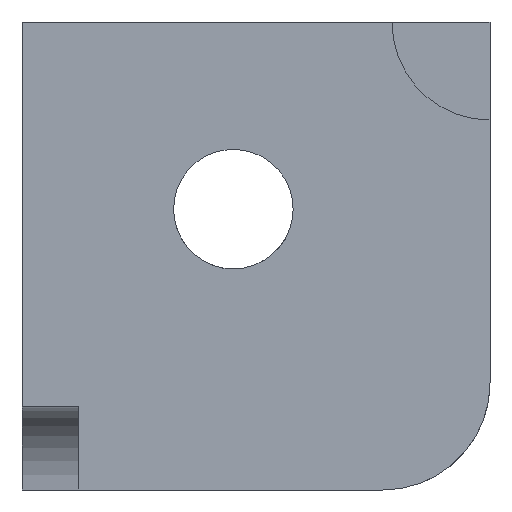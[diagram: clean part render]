
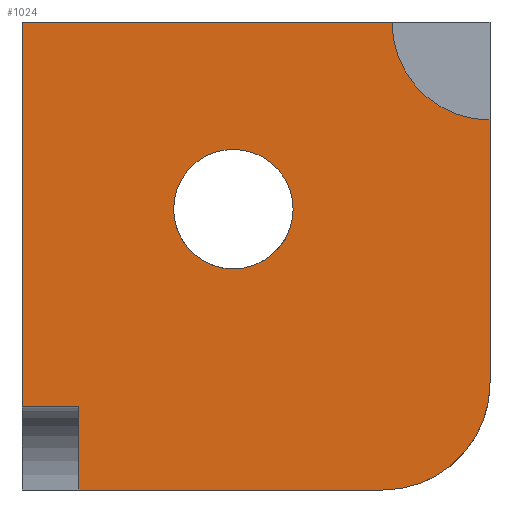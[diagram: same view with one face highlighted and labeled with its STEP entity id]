
A CAD part, front view. The second image highlights one B-rep face of the part: STEP entity #1024.
In plain terms, the highlighted planar face has unit normal (0, -1, 0).
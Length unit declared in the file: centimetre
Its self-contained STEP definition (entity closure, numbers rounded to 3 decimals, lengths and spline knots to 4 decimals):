
#4 = ORIENTED_EDGE ( 'NONE', *, *, #1007, .F. ) ;
#5 = CIRCLE ( 'NONE', #298, 229.3233 ) ;
#17 = EDGE_CURVE ( 'NONE', #1065, #495, #5, .T. ) ;
#21 = EDGE_CURVE ( 'NONE', #659, #865, #575, .T. ) ;
#23 = CARTESIAN_POINT ( 'NONE',  ( 770.6767, 0., 229.3233 ) ) ;
#28 = ORIENTED_EDGE ( 'NONE', *, *, #561, .T. ) ;
#59 = EDGE_CURVE ( 'NONE', #659, #1091, #947, .T. ) ;
#88 = LINE ( 'NONE', #426, #393 ) ;
#150 = FACE_OUTER_BOUND ( 'NONE', #875, .T. ) ;
#175 = LINE ( 'NONE', #542, #1070 ) ;
#176 = CARTESIAN_POINT ( 'NONE',  ( 1000., 0., 790.5405 ) ) ;
#210 = ORIENTED_EDGE ( 'NONE', *, *, #1118, .T. ) ;
#218 = VERTEX_POINT ( 'NONE', #842 ) ;
#224 = CARTESIAN_POINT ( 'NONE',  ( 790.5405, 0., 1000. ) ) ;
#236 = CARTESIAN_POINT ( 'NONE',  ( 1000., 0., 1000. ) ) ;
#265 = CARTESIAN_POINT ( 'NONE',  ( 1000., 0., 229.3233 ) ) ;
#288 = CARTESIAN_POINT ( 'NONE',  ( 0., 0., 1000. ) ) ;
#289 = LINE ( 'NONE', #657, #879 ) ;
#298 = AXIS2_PLACEMENT_3D ( 'NONE', #23, #843, #1027 ) ;
#319 = EDGE_LOOP ( 'NONE', ( #681, #4 ) ) ;
#340 = DIRECTION ( 'NONE',  ( 0., 0., 1. ) ) ;
#374 = VERTEX_POINT ( 'NONE', #176 ) ;
#386 = ORIENTED_EDGE ( 'NONE', *, *, #17, .T. ) ;
#391 = AXIS2_PLACEMENT_3D ( 'NONE', #891, #429, #340 ) ;
#393 = VECTOR ( 'NONE', #1153, 100. ) ;
#426 = CARTESIAN_POINT ( 'NONE',  ( 120.8986, 0., 178.6094 ) ) ;
#429 = DIRECTION ( 'NONE',  ( 0., 1., 0. ) ) ;
#442 = DIRECTION ( 'NONE',  ( 0., -1., 0. ) ) ;
#479 = DIRECTION ( 'NONE',  ( 0., 0., -1. ) ) ;
#487 = VERTEX_POINT ( 'NONE', #834 ) ;
#495 = VERTEX_POINT ( 'NONE', #265 ) ;
#512 = EDGE_CURVE ( 'NONE', #1115, #218, #807, .T. ) ;
#521 = PLANE ( 'NONE',  #391 ) ;
#530 = LINE ( 'NONE', #1085, #567 ) ;
#542 = CARTESIAN_POINT ( 'NONE',  ( 0., 0., 0. ) ) ;
#551 = AXIS2_PLACEMENT_3D ( 'NONE', #236, #1051, #585 ) ;
#553 = VECTOR ( 'NONE', #943, 100. ) ;
#561 = EDGE_CURVE ( 'NONE', #897, #1065, #175, .T. ) ;
#566 = DIRECTION ( 'NONE',  ( 0., 0., 1. ) ) ;
#567 = VECTOR ( 'NONE', #904, 100. ) ;
#570 = ORIENTED_EDGE ( 'NONE', *, *, #775, .F. ) ;
#575 = LINE ( 'NONE', #838, #553 ) ;
#585 = DIRECTION ( 'NONE',  ( 0., 0., -1. ) ) ;
#601 = AXIS2_PLACEMENT_3D ( 'NONE', #630, #442, #902 ) ;
#606 = EDGE_CURVE ( 'NONE', #865, #374, #748, .T. ) ;
#630 = CARTESIAN_POINT ( 'NONE',  ( 451.5449, 0., 599.9922 ) ) ;
#633 = CARTESIAN_POINT ( 'NONE',  ( 451.5449, 0., 472.2789 ) ) ;
#657 = CARTESIAN_POINT ( 'NONE',  ( 120.8986, 0., 1000. ) ) ;
#659 = VERTEX_POINT ( 'NONE', #693 ) ;
#664 = ORIENTED_EDGE ( 'NONE', *, *, #606, .F. ) ;
#670 = EDGE_CURVE ( 'NONE', #374, #495, #530, .T. ) ;
#681 = ORIENTED_EDGE ( 'NONE', *, *, #512, .F. ) ;
#693 = CARTESIAN_POINT ( 'NONE',  ( 0., 0., 1000. ) ) ;
#703 = ORIENTED_EDGE ( 'NONE', *, *, #670, .F. ) ;
#729 = DIRECTION ( 'NONE',  ( 0., 0., -1. ) ) ;
#748 = CIRCLE ( 'NONE', #551, 209.4595 ) ;
#763 = VECTOR ( 'NONE', #479, 100. ) ;
#775 = EDGE_CURVE ( 'NONE', #897, #487, #289, .T. ) ;
#807 = CIRCLE ( 'NONE', #601, 127.7134 ) ;
#808 = CARTESIAN_POINT ( 'NONE',  ( 0., 0., 178.6094 ) ) ;
#821 = ORIENTED_EDGE ( 'NONE', *, *, #59, .T. ) ;
#834 = CARTESIAN_POINT ( 'NONE',  ( 120.8986, 0., 178.6094 ) ) ;
#838 = CARTESIAN_POINT ( 'NONE',  ( 0., 0., 1000. ) ) ;
#842 = CARTESIAN_POINT ( 'NONE',  ( 451.5449, 0., 727.7056 ) ) ;
#843 = DIRECTION ( 'NONE',  ( 0., -1., 0. ) ) ;
#865 = VERTEX_POINT ( 'NONE', #224 ) ;
#872 = CARTESIAN_POINT ( 'NONE',  ( 120.8986, 0., 0. ) ) ;
#875 = EDGE_LOOP ( 'NONE', ( #821, #210, #570, #28, #386, #703, #664, #921 ) ) ;
#876 = CIRCLE ( 'NONE', #968, 127.7134 ) ;
#879 = VECTOR ( 'NONE', #566, 100. ) ;
#891 = CARTESIAN_POINT ( 'NONE',  ( 0., 0., 1000. ) ) ;
#897 = VERTEX_POINT ( 'NONE', #872 ) ;
#902 = DIRECTION ( 'NONE',  ( 0., 0., -1. ) ) ;
#904 = DIRECTION ( 'NONE',  ( 0., 0., -1. ) ) ;
#916 = DIRECTION ( 'NONE',  ( 1., 0., 0. ) ) ;
#921 = ORIENTED_EDGE ( 'NONE', *, *, #21, .F. ) ;
#943 = DIRECTION ( 'NONE',  ( 1., 0., 0. ) ) ;
#947 = LINE ( 'NONE', #288, #763 ) ;
#968 = AXIS2_PLACEMENT_3D ( 'NONE', #1012, #997, #729 ) ;
#997 = DIRECTION ( 'NONE',  ( 0., -1., 0. ) ) ;
#1007 = EDGE_CURVE ( 'NONE', #218, #1115, #876, .T. ) ;
#1012 = CARTESIAN_POINT ( 'NONE',  ( 451.5449, 0., 599.9922 ) ) ;
#1024 = ADVANCED_FACE ( 'NONE', ( #1064, #150 ), #521, .F. ) ;
#1027 = DIRECTION ( 'NONE',  ( 0., 0., 1. ) ) ;
#1051 = DIRECTION ( 'NONE',  ( 0., -1., 0. ) ) ;
#1064 = FACE_BOUND ( 'NONE', #319, .T. ) ;
#1065 = VERTEX_POINT ( 'NONE', #1129 ) ;
#1070 = VECTOR ( 'NONE', #916, 100. ) ;
#1085 = CARTESIAN_POINT ( 'NONE',  ( 1000., 0., 1000. ) ) ;
#1091 = VERTEX_POINT ( 'NONE', #808 ) ;
#1115 = VERTEX_POINT ( 'NONE', #633 ) ;
#1118 = EDGE_CURVE ( 'NONE', #1091, #487, #88, .T. ) ;
#1129 = CARTESIAN_POINT ( 'NONE',  ( 770.6767, 0., 0. ) ) ;
#1153 = DIRECTION ( 'NONE',  ( 1., 0., 0. ) ) ;
